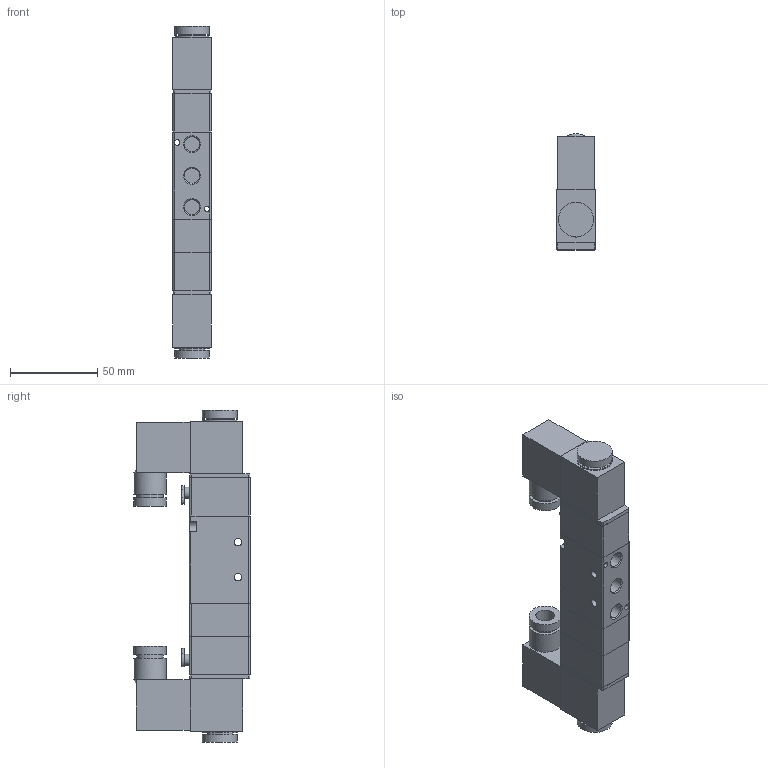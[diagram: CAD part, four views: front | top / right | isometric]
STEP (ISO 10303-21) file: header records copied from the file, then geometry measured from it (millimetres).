
FILE_DESCRIPTION( ( 'STEP AP214' ), '1' );
FILE_NAME( 'C:/Users/emc02044/Desktop/RV五通/RV5322P-06E1.stp', '2026-07-31T10:03:44', ( 'License CC BY-ND 4.0' ), ( 'CADENAS' ), ' ', 'PARTsolutions', ' ' );
FILE_SCHEMA( ( 'AUTOMOTIVE_DESIGN { 1 0 10303 214 1 1 1 1 }' ) );
Length unit declared in the file: millimetre
Products named in the file (1): _RV5322P-06E1
Bounding box: 22 x 66.8 x 190.1 mm (x, y, z)
Volume: 173267.1 mm3; surface area: 35230.7 mm2
Topology: 1 solids, 1 shells, 154 faces, 365 edges, 239 vertices
Faces by surface type: plane 90, cylinder 57, cone 7
Full cylindrical faces by diameter (mm): 3.2 x2, 4.3 x2, 6.5 x2, 8.566 x5, 10.8 x2, 15 x4, 18.6 x4, 20 x4
Entity records: 5546 total; most frequent: CARTESIAN_POINT 775, DIRECTION 758, ORIENTED_EDGE 654, EDGE_CURVE 327, AXIS2_PLACEMENT_3D 280, VERTEX_POINT 231, EDGE_LOOP 218, LINE 198
